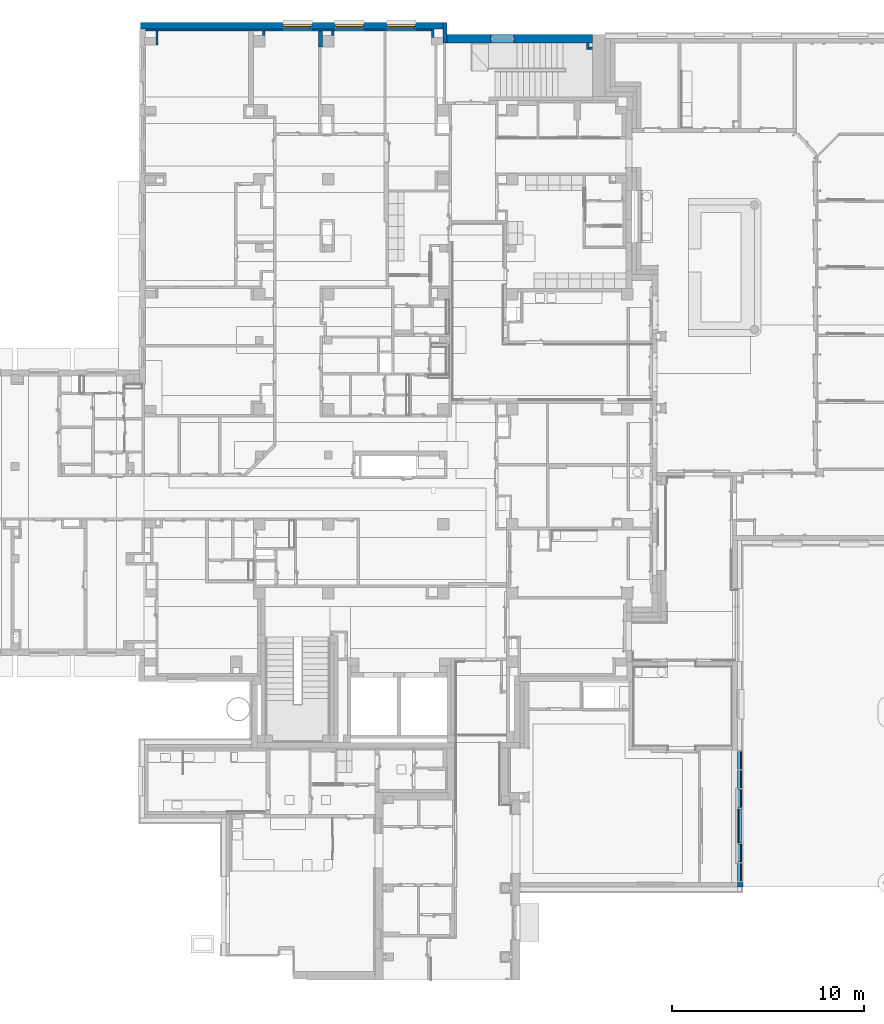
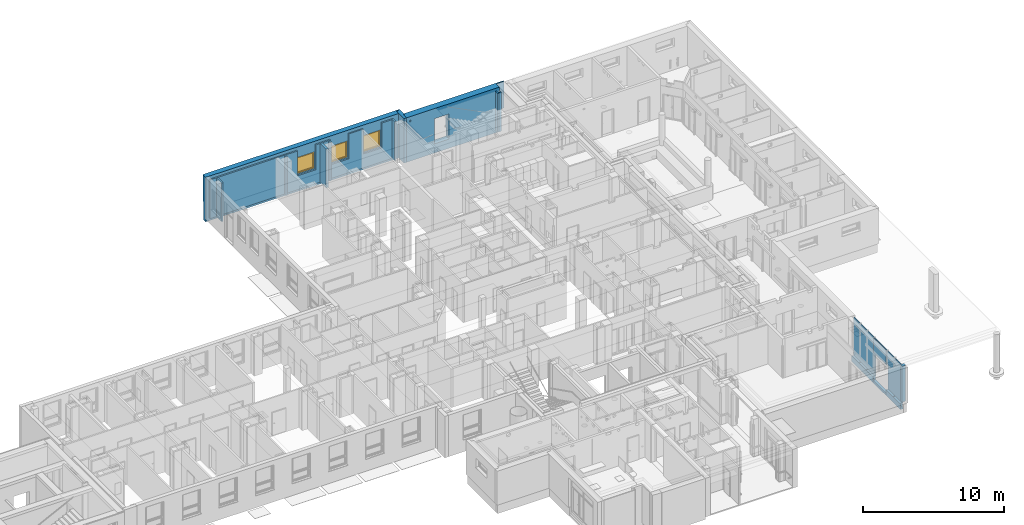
# One storey, part 55 of 140: 17 walls, 3 windows, 10 openings.
"""IFC4 building model written with IfcOpenShell, lengths in metres."""

from ifc_helpers import new_model, entity, si_unit, converted_unit, derived_unit, frame, frame_2d, origin, origin_with_axes, place, context, subcontext, project, spatial, polyline, rectangle, outline, extrude, clip, bounded_halfspace, closed_shell, open_shell, surface_model, source, transform, mapped, material, layer, layer_set, layer_usage, element, fill, save


model = new_model("IFC4")

# Units and contexts
model_context = context("Model", 3, precision=1e-05, world=origin())
body_context = subcontext(model_context, "Body", "Model", "MODEL_VIEW")
ifc_project = project(units=[si_unit("LENGTHUNIT", "METRE"), si_unit("AREAUNIT", "SQUARE_METRE"), si_unit("VOLUMEUNIT", "CUBIC_METRE"), si_unit("MASSUNIT", "GRAM", prefix="KILO"), converted_unit("PLANEANGLEUNIT", "DEGREE", entity("IfcPlaneAngleMeasure", 0.0174532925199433), si_unit("PLANEANGLEUNIT", "RADIAN"), dimensions=[0, 0, 0, 0, 0, 0, 0]), derived_unit("THERMALTRANSMITTANCEUNIT", [(si_unit("POWERUNIT", "WATT"), 1), (si_unit("THERMODYNAMICTEMPERATUREUNIT", "KELVIN"), -1), (si_unit("LENGTHUNIT", "METRE"), -2)]), derived_unit("VOLUMETRICFLOWRATEUNIT", [(si_unit("LENGTHUNIT", "METRE"), 3), (converted_unit("TIMEUNIT", "hour", entity("IfcTimeMeasure", 3600.0), si_unit("TIMEUNIT", "SECOND"), dimensions=[0, 0, 1, 0, 0, 0, 0]), -1), (si_unit("LENGTHUNIT", "METRE"), -1)])], contexts=[model_context])

# Site, building, storey
site_placement = place(None, origin())
site = spatial("IfcSite", under=ifc_project, at=site_placement, Name="3. ASŘ", CompositionType="ELEMENT")
building_placement = place(site_placement, origin())
building = spatial("IfcBuilding", under=site, at=building_placement, Name="Pavilon C", CompositionType="ELEMENT")
storey_placement = place(building_placement, origin())
storey = spatial("IfcBuildingStorey", under=building, at=storey_placement, Name="Půdorys 1.NP", CompositionType="ELEMENT", Elevation=0.0)

# Walls
ifc_material_1 = material(Name="ZDIVO Z CDm")
ifc_layer_1 = layer(ifc_material_1, 0.125)
ifc_layer_set_1 = layer_set([ifc_layer_1])
ifc_layer_usage_1 = layer_usage(ifc_layer_set_1, "AXIS2", "POSITIVE", 0.0)
wall_1_placement = place(storey_placement, frame((39.75, 33.05, -0.1), z_axis=(0.0, 0.0, 1.0), x_axis=(0.0, -1.0, 0.0)))
element("IfcWall", 1, at=wall_1_placement, inside=storey, material=ifc_layer_usage_1, Name="ZDIVO Z CDm", context=body_context, shape_type="SweptSolid", body=[
    extrude(rectangle(XDim=0.449999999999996, YDim=0.125, at=frame_2d((0.224999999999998, 0.0625), x_axis=(1.0, 0.0))), origin_with_axes(), (0.0, 0.0, 1.0), 3.35),
])
ifc_material_2 = material(Name="ZDIVO Z CDm")
ifc_layer_2 = layer(ifc_material_2, 0.125)
ifc_layer_set_2 = layer_set([ifc_layer_2])
ifc_layer_usage_2 = layer_usage(ifc_layer_set_2, "AXIS2", "POSITIVE", 0.0)
wall_2_placement = place(storey_placement, frame((47.95, 31.975, -0.1), z_axis=(0.0, 0.0, 1.0), x_axis=(0.0, 1.0, 0.0)))
element("IfcWall", 2, at=wall_2_placement, inside=storey, material=ifc_layer_usage_2, Name="ZDIVO Z CDm", context=body_context, shape_type="SweptSolid", body=[
    extrude(rectangle(XDim=0.325, YDim=0.125, at=frame_2d((0.1625, 0.0625), x_axis=(1.0, 0.0))), origin_with_axes(), (0.0, 0.0, 1.0), 3.35),
])
ifc_material_3 = material(Name="ZDIVO Z CDm")
ifc_layer_3 = layer(ifc_material_3, 0.125)
ifc_layer_set_3 = layer_set([ifc_layer_3])
ifc_layer_usage_3 = layer_usage(ifc_layer_set_3, "AXIS2", "POSITIVE", 0.0)
wall_3_placement = place(storey_placement, frame((48.15, 32.1, -0.1), z_axis=(0.0, 0.0, 1.0), x_axis=(-1.0, 0.0, 0.0)))
element("IfcWall", 3, at=wall_3_placement, inside=storey, material=ifc_layer_usage_3, Name="ZDIVO Z CDm", context=body_context, shape_type="SweptSolid", body=[
    extrude(rectangle(XDim=0.200000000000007, YDim=0.125, at=frame_2d((0.100000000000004, 0.0625), x_axis=(1.0, 0.0))), origin_with_axes(), (0.0, 0.0, 1.0), 3.35),
])

# Wall, openings
ifc_material_4 = material(Name="PÓROBETONOVÉ ZDIVO")
ifc_layer_4 = layer(ifc_material_4, 0.12)
ifc_layer_set_4 = layer_set([ifc_layer_4])
ifc_layer_usage_4 = layer_usage(ifc_layer_set_4, "AXIS2", "POSITIVE", 0.0)
wall_4_placement = place(storey_placement, frame((39.75, 33.05, -0.1), z_axis=(0.0, 0.0, 1.0), x_axis=(-1.0, 0.0, 0.0)))
wall_4 = element("IfcWall", 4, at=wall_4_placement, inside=storey, material=ifc_layer_usage_4, Name="PÓROBETONOVÉ ZDIVO", context=body_context, shape_type="SweptSolid", body=[
    extrude(rectangle(XDim=14.93, YDim=0.12, at=frame_2d((7.46500000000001, 0.06), x_axis=(1.0, 0.0))), origin_with_axes(), (0.0, 0.0, 1.0), 3.35),
])
opening_1_placement = place(wall_4_placement, frame((7.75000000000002, 0.12, 1.2), z_axis=(0.0, -1.0, 0.0), x_axis=(0.0, 0.0, 1.0)))
element("IfcOpeningElement", 5, at=opening_1_placement, cuts=wall_4, Name="Okenní otvor", ObjectType="Opening", context=body_context, shape_type="SweptSolid", body=[
    extrude(outline(polyline([(0.0, 1.5), (2.15, 1.5), (2.15, 0.0), (0.0, 0.0), (0.0, 1.5)])), origin_with_axes(), (0.0, 0.0, 1.0), 0.12),
])
opening_2_placement = place(wall_4_placement, frame((5.05000000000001, 0.12, 1.2), z_axis=(0.0, -1.0, 0.0), x_axis=(0.0, 0.0, 1.0)))
element("IfcOpeningElement", 6, at=opening_2_placement, cuts=wall_4, Name="Okenní otvor", ObjectType="Opening", context=body_context, shape_type="SweptSolid", body=[
    extrude(outline(polyline([(0.0, 1.5), (2.15, 1.5), (2.15, 0.0), (0.0, 0.0), (0.0, 1.5)])), origin_with_axes(), (0.0, 0.0, 1.0), 0.12),
])
opening_3_placement = place(wall_4_placement, frame((2.35000000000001, 0.12, 1.2), z_axis=(0.0, -1.0, 0.0), x_axis=(0.0, 0.0, 1.0)))
element("IfcOpeningElement", 7, at=opening_3_placement, cuts=wall_4, Name="Okenní otvor", ObjectType="Opening", context=body_context, shape_type="SweptSolid", body=[
    extrude(outline(polyline([(0.0, 1.5), (2.15, 1.5), (2.15, 0.0), (0.0, 0.0), (0.0, 1.5)])), origin_with_axes(), (0.0, 0.0, 1.0), 0.12),
])

# Walls
ifc_material_5 = material(Name="ZDIVO Z CDm")
ifc_layer_5 = layer(ifc_material_5, 0.125)
ifc_layer_set_5 = layer_set([ifc_layer_5])
ifc_layer_usage_5 = layer_usage(ifc_layer_set_5, "AXIS2", "POSITIVE", 0.0)
wall_5_placement = place(storey_placement, frame((31.05, 32.7, -0.1), z_axis=(0.0, 0.0, 1.0), x_axis=(0.0, 1.0, 0.0)))
element("IfcWall", 8, at=wall_5_placement, inside=storey, material=ifc_layer_usage_5, Name="ZDIVO Z CDm", context=body_context, shape_type="SweptSolid", body=[
    extrude(rectangle(XDim=0.23, YDim=0.125, at=frame_2d((0.115, 0.0625), x_axis=(1.0, 0.0))), origin_with_axes(), (0.0, 0.0, 1.0), 3.35),
])
ifc_material_6 = material(Name="ZDIVO Z CDm")
ifc_layer_6 = layer(ifc_material_6, 0.125)
ifc_layer_set_6 = layer_set([ifc_layer_6])
ifc_layer_usage_6 = layer_usage(ifc_layer_set_6, "AXIS2", "POSITIVE", 0.0)
wall_6_placement = place(storey_placement, frame((34.65, 32.7, -0.1), z_axis=(0.0, 0.0, 1.0), x_axis=(0.0, 1.0, 0.0)))
element("IfcWall", 9, at=wall_6_placement, inside=storey, material=ifc_layer_usage_6, Name="ZDIVO Z CDm", context=body_context, shape_type="SweptSolid", body=[
    extrude(rectangle(XDim=0.23, YDim=0.125, at=frame_2d((0.115, 0.0625), x_axis=(1.0, 0.0))), origin_with_axes(), (0.0, 0.0, 1.0), 3.35),
])
ifc_material_7 = material(Name="ZDIVO Z CDm")
ifc_layer_7 = layer(ifc_material_7, 0.2)
ifc_layer_set_7 = layer_set([ifc_layer_7])
ifc_layer_usage_7 = layer_usage(ifc_layer_set_7, "AXIS2", "POSITIVE", 0.0)
wall_7_placement = place(storey_placement, frame((33.85, 32.93, -0.1), z_axis=(0.0, 0.0, 1.0), x_axis=(0.0, -1.0, 0.0)))
element("IfcWall", 10, at=wall_7_placement, inside=storey, material=ifc_layer_usage_7, Name="ZDIVO Z CDm", context=body_context, shape_type="SweptSolid", body=[
    extrude(rectangle(XDim=0.83, YDim=0.2, at=frame_2d((0.415, 0.1), x_axis=(1.0, 0.0))), origin_with_axes(), (0.0, 0.0, 1.0), 3.35),
])
ifc_material_8 = material(Name="ZDIVO Z CDm")
ifc_layer_8 = layer(ifc_material_8, 0.125)
ifc_layer_set_8 = layer_set([ifc_layer_8])
ifc_layer_usage_8 = layer_usage(ifc_layer_set_8, "AXIS2", "POSITIVE", 0.0)
wall_8_placement = place(storey_placement, frame((25.35, 32.93, -0.1), z_axis=(0.0, 0.0, 1.0), x_axis=(0.0, -1.0, 0.0)))
element("IfcWall", 11, at=wall_8_placement, inside=storey, material=ifc_layer_usage_8, Name="ZDIVO Z CDm", context=body_context, shape_type="SweptSolid", body=[
    extrude(rectangle(XDim=0.73, YDim=0.125, at=frame_2d((0.365, 0.0625), x_axis=(1.0, 0.0))), origin_with_axes(), (0.0, 0.0, 1.0), 3.35),
])

# Wall, openings, windows
ifc_material_9 = material(Name="ZELEZOBETONOVÁ KCE")
ifc_layer_9 = layer(ifc_material_9, 0.320000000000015)
ifc_material_10 = material(Name="EPS")
ifc_layer_10 = layer(ifc_material_10, 0.1)
ifc_layer_set_9 = layer_set([ifc_layer_9, ifc_layer_10])
ifc_layer_usage_9 = layer_usage(ifc_layer_set_9, "AXIS2", "POSITIVE", 0.0)
wall_9_placement = place(storey_placement, frame((24.55, 33.05, -0.35), z_axis=(0.0, 0.0, 1.0), x_axis=(1.0, -4.60503646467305e-16, 0.0)))
wall_9 = element("IfcWall", 12, at=wall_9_placement, inside=storey, material=ifc_layer_usage_9, Name="ZELEZOBETONOVÁ KCE", context=body_context, shape_type="Clipping", body=[
    clip(extrude(outline(polyline([(-3.35060501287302e-30, 7.27595761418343e-15), (15.8, 7.27595761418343e-15), (15.8, 0.320000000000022), (16.0, 0.320000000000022), (16.0, 0.420000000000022), (-1.93411531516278e-16, 0.420000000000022), (-3.35060501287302e-30, 7.27595761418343e-15)])), frame((3.35060501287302e-30, -7.27595761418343e-15, 0.0), z_axis=(0.0, 0.0, 1.0), x_axis=(1.0, 0.0, 0.0)), (0.0, 0.0, 1.0), 3.85), bounded_halfspace(frame((9.56, 0.360000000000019, 1.55), z_axis=(-5.23532033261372e-31, 1.13686837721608e-15, 1.0), x_axis=(4.60503646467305e-16, -1.0, 0.0)), True, origin_with_axes(), polyline([(-1.93411531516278e-16, 0.420000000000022), (-1.47361166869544e-16, 0.320000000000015), (15.8, 0.320000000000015), (16.0, 0.320000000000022), (16.0, 0.420000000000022), (-1.93411531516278e-16, 0.420000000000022)]))),
])
opening_4_placement = place(wall_9_placement, frame((8.95, 0.320000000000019, 1.45), z_axis=(0.0, -1.0, 0.0), x_axis=(0.0, 0.0, 1.0)))
opening_4 = element("IfcOpeningElement", 13, at=opening_4_placement, cuts=wall_9, Name="Okenní otvor", ObjectType="Opening", context=body_context, shape_type="SweptSolid", body=[
    extrude(outline(polyline([(0.0, 1.5), (1.5, 1.5), (1.5, 0.0), (0.0, 0.0), (0.0, 1.5)])), origin_with_axes(), (0.0, 0.0, 1.0), 0.320000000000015),
    extrude(outline(polyline([(0.0, 1.5), (1.5, 1.5), (1.5, 0.0), (0.0, 0.0), (0.0, 1.5)])), frame((0.0, 0.0, -0.1), z_axis=(0.0, 0.0, 1.0), x_axis=(1.0, 0.0, 0.0)), (0.0, 0.0, 1.0), 0.1),
])
opening_5_placement = place(wall_9_placement, frame((11.65, 0.320000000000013, 1.45), z_axis=(0.0, -1.0, 0.0), x_axis=(0.0, 0.0, 1.0)))
opening_5 = element("IfcOpeningElement", 14, at=opening_5_placement, cuts=wall_9, Name="Okenní otvor", ObjectType="Opening", context=body_context, shape_type="SweptSolid", body=[
    extrude(outline(polyline([(0.0, 1.5), (1.5, 1.5), (1.5, 0.0), (0.0, 0.0), (0.0, 1.5)])), origin_with_axes(), (0.0, 0.0, 1.0), 0.320000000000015),
    extrude(outline(polyline([(0.0, 1.5), (1.5, 1.5), (1.5, 0.0), (0.0, 0.0), (0.0, 1.5)])), frame((0.0, 0.0, -0.1), z_axis=(0.0, 0.0, 1.0), x_axis=(1.0, 0.0, 0.0)), (0.0, 0.0, 1.0), 0.1),
])
opening_6_placement = place(wall_9_placement, frame((14.35, 0.320000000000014, 1.45), z_axis=(0.0, -1.0, 0.0), x_axis=(0.0, 0.0, 1.0)))
opening_6 = element("IfcOpeningElement", 15, at=opening_6_placement, cuts=wall_9, Name="Okenní otvor", ObjectType="Opening", context=body_context, shape_type="SweptSolid", body=[
    extrude(outline(polyline([(0.0, 1.5), (1.5, 1.5), (1.5, 0.0), (0.0, 0.0), (0.0, 1.5)])), origin_with_axes(), (0.0, 0.0, 1.0), 0.320000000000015),
    extrude(outline(polyline([(0.0, 1.5), (1.5, 1.5), (1.5, 0.0), (0.0, 0.0), (0.0, 1.5)])), frame((0.0, 0.0, -0.1), z_axis=(0.0, 0.0, 1.0), x_axis=(1.0, 0.0, 0.0)), (0.0, 0.0, 1.0), 0.1),
])
shared_shape = source(origin_with_axes(), body_context, "Body", "SurfaceModel", [
    surface_model("IfcShellBasedSurfaceModel", [(0.0, 0.182, 1.5), (0.0, 0.182, -5.63337527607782e-18), (0.08, 0.182, -5.63337527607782e-18), (0.08, 0.182, 1.5), (0.0, 0.0899999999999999, 5.63337527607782e-18), (0.0, 0.0900000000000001, 1.5), (0.08, 0.0900000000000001, 1.5), (0.08, 0.0899999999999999, 5.63337527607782e-18)], [closed_shell([[[0, 1, 2, 3]], [[4, 5, 6, 7]], [[1, 0, 5, 4]], [[2, 1, 4, 7]], [[3, 2, 7, 6]], [[0, 3, 6, 5]]], orient=[[False], [False], [False], [False], [False], [False]])]),
    surface_model("IfcShellBasedSurfaceModel", [(1.42, 0.182, 1.5), (1.42, 0.182, -5.63337527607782e-18), (1.5, 0.182, -5.63337527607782e-18), (1.5, 0.182, 1.5), (1.42, 0.0899999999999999, 5.63337527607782e-18), (1.42, 0.0900000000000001, 1.5), (1.5, 0.0900000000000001, 1.5), (1.5, 0.0899999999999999, 5.63337527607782e-18)], [closed_shell([[[0, 1, 2, 3]], [[4, 5, 6, 7]], [[1, 0, 5, 4]], [[2, 1, 4, 7]], [[3, 2, 7, 6]], [[0, 3, 6, 5]]], orient=[[False], [False], [False], [False], [False], [False]])]),
    surface_model("IfcShellBasedSurfaceModel", [(0.08, 0.182, 0.08), (0.08, 0.182, -5.63337527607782e-18), (1.42, 0.182, -5.63337527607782e-18), (1.42, 0.182, 0.08), (0.08, 0.0899999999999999, 5.63337527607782e-18), (0.08, 0.0899999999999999, 0.08), (1.42, 0.0899999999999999, 0.08), (1.42, 0.0899999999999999, 5.63337527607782e-18)], [closed_shell([[[0, 1, 2, 3]], [[4, 5, 6, 7]], [[1, 0, 5, 4]], [[2, 1, 4, 7]], [[3, 2, 7, 6]], [[0, 3, 6, 5]]], orient=[[False], [False], [False], [False], [False], [False]])]),
    surface_model("IfcShellBasedSurfaceModel", [(0.08, 0.182, 1.5), (0.08, 0.182, 1.42), (1.42, 0.182, 1.42), (1.42, 0.182, 1.5), (0.08, 0.0900000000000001, 1.42), (0.08, 0.0900000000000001, 1.5), (1.42, 0.0900000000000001, 1.5), (1.42, 0.0900000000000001, 1.42)], [closed_shell([[[0, 1, 2, 3]], [[4, 5, 6, 7]], [[1, 0, 5, 4]], [[2, 1, 4, 7]], [[3, 2, 7, 6]], [[0, 3, 6, 5]]], orient=[[False], [False], [False], [False], [False], [False]])]),
    surface_model("IfcShellBasedSurfaceModel", [(0.05, 0.145, 1.45), (0.05, 0.145, 0.05), (0.13, 0.145, 0.05), (0.13, 0.145, 1.45), (0.05, 0.0599999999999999, 0.05), (0.05, 0.0600000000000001, 1.45), (0.13, 0.0600000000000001, 1.45), (0.13, 0.0599999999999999, 0.05)], [closed_shell([[[0, 1, 2, 3]], [[4, 5, 6, 7]], [[1, 0, 5, 4]], [[2, 1, 4, 7]], [[3, 2, 7, 6]], [[0, 3, 6, 5]]], orient=[[False], [False], [False], [False], [False], [False]])]),
    surface_model("IfcShellBasedSurfaceModel", [(1.37, 0.145, 1.45), (1.37, 0.145, 0.05), (1.45, 0.145, 0.05), (1.45, 0.145, 1.45), (1.37, 0.0599999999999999, 0.05), (1.37, 0.0600000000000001, 1.45), (1.45, 0.0600000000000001, 1.45), (1.45, 0.0599999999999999, 0.05)], [closed_shell([[[0, 1, 2, 3]], [[4, 5, 6, 7]], [[1, 0, 5, 4]], [[2, 1, 4, 7]], [[3, 2, 7, 6]], [[0, 3, 6, 5]]], orient=[[False], [False], [False], [False], [False], [False]])]),
    surface_model("IfcShellBasedSurfaceModel", [(0.13, 0.145, 0.13), (0.13, 0.145, 0.05), (1.37, 0.145, 0.05), (1.37, 0.145, 0.13), (0.13, 0.0599999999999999, 0.05), (0.13, 0.0599999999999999, 0.13), (1.37, 0.0599999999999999, 0.13), (1.37, 0.0599999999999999, 0.05)], [closed_shell([[[0, 1, 2, 3]], [[4, 5, 6, 7]], [[1, 0, 5, 4]], [[2, 1, 4, 7]], [[3, 2, 7, 6]], [[0, 3, 6, 5]]], orient=[[False], [False], [False], [False], [False], [False]])]),
    surface_model("IfcShellBasedSurfaceModel", [(0.13, 0.145, 1.45), (0.13, 0.145, 1.37), (1.37, 0.145, 1.37), (1.37, 0.145, 1.45), (0.13, 0.0600000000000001, 1.37), (0.13, 0.0600000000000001, 1.45), (1.37, 0.0600000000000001, 1.45), (1.37, 0.0600000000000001, 1.37)], [closed_shell([[[0, 1, 2, 3]], [[4, 5, 6, 7]], [[1, 0, 5, 4]], [[2, 1, 4, 7]], [[3, 2, 7, 6]], [[0, 3, 6, 5]]], orient=[[False], [False], [False], [False], [False], [False]])]),
    surface_model("IfcShellBasedSurfaceModel", [(1.3975, 0.06, 0.77), (1.3975, 0.06, 0.73), (1.4225, 0.06, 0.73), (1.4225, 0.06, 0.77), (1.3975, 0.05, 0.73), (1.3975, 0.05, 0.77), (1.4225, 0.05, 0.77), (1.4225, 0.05, 0.73)], [closed_shell([[[0, 1, 2, 3]], [[4, 5, 6, 7]], [[1, 0, 5, 4]], [[2, 1, 4, 7]], [[3, 2, 7, 6]], [[0, 3, 6, 5]]], orient=[[False], [False], [False], [False], [False], [False]])]),
    surface_model("IfcShellBasedSurfaceModel", [(1.42, 0.05, 0.75), (1.41866025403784, 0.05, 0.755), (1.415, 0.05, 0.758660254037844), (1.41, 0.05, 0.76), (1.405, 0.05, 0.758660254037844), (1.40133974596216, 0.05, 0.755), (1.4, 0.05, 0.75), (1.40133974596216, 0.05, 0.745), (1.405, 0.05, 0.741339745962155), (1.41, 0.05, 0.74), (1.415, 0.05, 0.741339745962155), (1.41866025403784, 0.05, 0.745), (1.42, 0.01, 0.75), (1.41866025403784, 0.00500000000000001, 0.755), (1.415, 0.00133974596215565, 0.758660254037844), (1.41, 2.8421709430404e-17, 0.76), (1.405, 0.00133974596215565, 0.758660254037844), (1.40133974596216, 0.00500000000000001, 0.755), (1.4, 0.01, 0.75), (1.40133974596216, 0.015, 0.745), (1.405, 0.0186602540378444, 0.741339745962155), (1.41, 0.02, 0.74), (1.415, 0.0186602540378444, 0.741339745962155), (1.41866025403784, 0.015, 0.745), (1.42, 0.01, 0.635), (1.41866025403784, 0.005, 0.635), (1.415, 0.00133974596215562, 0.635), (1.41, 0.0, 0.635), (1.405, 0.00133974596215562, 0.635), (1.40133974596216, 0.005, 0.635), (1.4, 0.01, 0.635), (1.40133974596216, 0.015, 0.635), (1.405, 0.0186602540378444, 0.635), (1.41, 0.02, 0.635), (1.415, 0.0186602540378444, 0.635), (1.41866025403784, 0.015, 0.635)], [open_shell([[[0, 1, 2, 3, 4, 5, 6, 7, 8, 9, 10, 11]], [[0, 12, 13, 1]], [[1, 13, 14, 2]], [[2, 14, 15, 3]], [[3, 15, 16, 4]], [[4, 16, 17, 5]], [[5, 17, 18, 6]], [[6, 18, 19, 7]], [[7, 19, 20, 8]], [[8, 20, 21, 9]], [[9, 21, 22, 10]], [[10, 22, 23, 11]], [[11, 23, 12, 0]], [[12, 24, 25, 13]], [[13, 25, 26, 14]], [[14, 26, 27, 15]], [[15, 27, 28, 16]], [[16, 28, 29, 17]], [[17, 29, 30, 18]], [[18, 30, 31, 19]], [[19, 31, 32, 20]], [[20, 32, 33, 21]], [[21, 33, 34, 22]], [[22, 34, 35, 23]], [[23, 35, 24, 12]]], orient=[[False], [False], [False], [False], [False], [False], [False], [False], [False], [False], [False], [False], [False], [False], [False], [False], [False], [False], [False], [False], [False], [False], [False], [False], [False]])]),
    surface_model("IfcShellBasedSurfaceModel", [(0.13, 0.1025, 0.13), (1.37, 0.1025, 0.13), (1.37, 0.1025, 1.37), (0.13, 0.1025, 1.37)], [open_shell([[[0, 1, 2, 3]]], orient=[[False]])]),
])
window_1_placement = place(opening_4_placement, frame((0.0, 1.5, 0.282), z_axis=(1.0, 0.0, 0.0), x_axis=(0.0, -0.999999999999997, -2.15574286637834e-16)))
window_1 = element("IfcWindow", 16, at=window_1_placement, inside=storey, Name="O06", OverallHeight=1.5, OverallWidth=1.5, PartitioningType="USERDEFINED", PredefinedType="WINDOW", context=body_context, shape_type="MappedRepresentation", body=[
    mapped(shared_shape, transform((0.0, 0.0, 0.0), x_axis=(1.0, 0.0, 0.0), y_axis=(0.0, 1.0, 0.0), z_axis=(0.0, 0.0, 1.0), scale=0.999999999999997)),
])
fill(opening_4, window_1)
window_2_placement = place(opening_5_placement, frame((0.0, 1.5, 0.282), z_axis=(1.0, 0.0, 0.0), x_axis=(0.0, -1.0, -2.15574286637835e-16)))
window_2 = element("IfcWindow", 17, at=window_2_placement, inside=storey, Name="O06", OverallHeight=1.5, OverallWidth=1.5, PartitioningType="USERDEFINED", PredefinedType="WINDOW", context=body_context, shape_type="MappedRepresentation", body=[
    mapped(shared_shape, transform((0.0, 0.0, 0.0), x_axis=(1.0, 0.0, 0.0), y_axis=(0.0, 1.0, 0.0), z_axis=(0.0, 0.0, 1.0), scale=1.0)),
])
fill(opening_5, window_2)
window_3_placement = place(opening_6_placement, frame((0.0, 1.5, 0.282), z_axis=(1.0, 0.0, 0.0), x_axis=(0.0, -1.0, -2.15574286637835e-16)))
window_3 = element("IfcWindow", 18, at=window_3_placement, inside=storey, Name="O06", OverallHeight=1.5, OverallWidth=1.5, PartitioningType="USERDEFINED", PredefinedType="WINDOW", context=body_context, shape_type="MappedRepresentation", body=[
    mapped(shared_shape, transform((0.0, 0.0, 0.0), x_axis=(1.0, 0.0, 0.0), y_axis=(0.0, 1.0, 0.0), z_axis=(0.0, 0.0, 1.0), scale=1.0)),
])
fill(opening_6, window_3)

# Wall
ifc_material_11 = material(Name="ZELEZOBETONOVÁ KCE")
ifc_layer_11 = layer(ifc_material_11, 0.2)
ifc_material_12 = material(Name="EPS")
ifc_layer_12 = layer(ifc_material_12, 0.1)
ifc_layer_set_10 = layer_set([ifc_layer_11, ifc_layer_12])
ifc_layer_usage_10 = layer_usage(ifc_layer_set_10, "AXIS2", "POSITIVE", 0.0)
wall_10_placement = place(storey_placement, frame((40.35, 33.37, -0.35), z_axis=(0.0, 0.0, 1.0), x_axis=(0.0, -1.0, 0.0)))
element("IfcWall", 19, at=wall_10_placement, inside=storey, material=ifc_layer_usage_10, Name="ZELEZOBETONOVÁ KCE", context=body_context, shape_type="Clipping", body=[
    clip(extrude(outline(polyline([(-1.07000000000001, 0.0), (0.0, 0.0), (0.0, 0.2), (-0.45, 0.2), (-0.45, 0.3), (-1.17000000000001, 0.3), (-1.17000000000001, 0.2), (-1.07000000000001, 0.2), (-1.07000000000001, 0.0)])), frame((1.07000000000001, 0.0, 0.0), z_axis=(0.0, 0.0, 1.0), x_axis=(1.0, 0.0, 0.0)), (0.0, 0.0, 1.0), 3.85), bounded_halfspace(frame((0.208000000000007, 0.24, 1.55), z_axis=(0.0, 0.0, 1.0), x_axis=(0.0, -1.0, 0.0)), True, origin_with_axes(), polyline([(-0.1, 0.3), (-0.1, 0.2), (0.0, 0.2), (0.620000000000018, 0.2), (0.620000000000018, 0.3), (-0.1, 0.3)]))),
])

# Wall, openings
ifc_material_13 = material(Name="ZELEZOBETONOVÁ KCE")
ifc_layer_13 = layer(ifc_material_13, 0.45)
ifc_material_14 = material(Name="EPS")
ifc_layer_14 = layer(ifc_material_14, 0.1)
ifc_layer_set_11 = layer_set([ifc_layer_13, ifc_layer_14])
ifc_layer_usage_11 = layer_usage(ifc_layer_set_11, "AXIS2", "POSITIVE", 0.0)
wall_11_placement = place(storey_placement, frame((40.55, 32.3, -0.35)))
wall_11 = element("IfcWall", 20, at=wall_11_placement, inside=storey, material=ifc_layer_usage_11, Name="ZELEZOBETONOVÁ KCE", context=body_context, shape_type="Clipping", body=[
    clip(extrude(outline(polyline([(0.0, 0.0), (7.59999999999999, 0.0), (7.59999999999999, 0.45), (8.24999999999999, 0.45), (8.24999999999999, 0.55), (0.1, 0.55), (0.1, 0.45), (0.0, 0.45), (0.0, 0.0)])), origin_with_axes(), (0.0, 0.0, 1.0), 3.85), bounded_halfspace(frame((4.85999999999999, 0.490000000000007, 1.55), z_axis=(0.0, 1.13686837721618e-15, 1.0), x_axis=(0.0, -1.0, 0.0)), True, origin_with_axes(), polyline([(0.0999999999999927, 0.55), (0.0999999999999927, 0.450000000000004), (7.59999999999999, 0.45), (8.24999999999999, 0.450000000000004), (8.24999999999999, 0.55), (0.0999999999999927, 0.55)]))),
])
opening_7_placement = place(wall_11_placement, frame((3.49999999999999, 0.45, 0.8), z_axis=(0.0, -1.0, 0.0), x_axis=(0.0, 0.0, 1.0)))
element("IfcOpeningElement", 21, at=opening_7_placement, cuts=wall_11, Name="Dveřní otvor", ObjectType="Opening", context=body_context, shape_type="SweptSolid", body=[
    extrude(outline(polyline([(0.0, 1.2), (2.18, 1.2), (2.18, 0.0), (0.0, 0.0), (0.0, 1.2)])), origin_with_axes(), (0.0, 0.0, 1.0), 0.45),
    extrude(outline(polyline([(0.0, 1.2), (2.18, 1.2), (2.18, 0.0), (0.0, 0.0), (0.0, 1.2)])), frame((0.0, 0.0, -0.1), z_axis=(0.0, 0.0, 1.0), x_axis=(1.0, 0.0, 0.0)), (0.0, 0.0, 1.0), 0.1),
])
opening_8_placement = place(wall_11_placement, frame((0.268639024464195, 0.0, 3.4), z_axis=(0.0, 1.0, 0.0), x_axis=(0.0, 0.0, 1.0)))
element("IfcOpeningElement", 22, at=opening_8_placement, cuts=wall_11, Name="CHL", ObjectType="Opening", context=body_context, shape_type="SweptSolid", body=[
    extrude(outline(polyline([(0.0, 0.1), (0.15, 0.1), (0.15, 0.0), (0.0, 0.0), (0.0, 0.1)])), origin_with_axes(), (0.0, 0.0, 1.0), 0.55),
])

# Wall, opening
ifc_material_15 = material(Name="PROSKLENÁ FASÁDA")
ifc_layer_15 = layer(ifc_material_15, 0.055)
ifc_layer_set_12 = layer_set([ifc_layer_15])
ifc_layer_usage_12 = layer_usage(ifc_layer_set_12, "AXIS2", "POSITIVE", 0.0)
wall_12_placement = place(storey_placement, frame((55.73, -7.64999999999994, -0.3), z_axis=(0.0, 0.0, 1.0), x_axis=(8.08439734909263e-15, -1.0, 0.0)))
wall_12 = element("IfcWall", 23, at=wall_12_placement, inside=storey, material=ifc_layer_usage_12, Name="PROSKLENÁ PŘÍČKA JEDNODUCHÁ", context=body_context, shape_type="SweptSolid", body=[
    extrude(rectangle(XDim=1.80000000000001, YDim=0.055, at=frame_2d((0.900000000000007, 0.0275), x_axis=(1.0, 0.0))), origin_with_axes(), (0.0, 0.0, 1.0), 3.7),
])
opening_9_placement = place(wall_12_placement, frame((1.80000000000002, 0.055, 0.0), z_axis=(-8.26813365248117e-15, -1.0, 0.0), x_axis=(0.0, 0.0, 1.0)))
element("IfcOpeningElement", 24, at=opening_9_placement, cuts=wall_12, ObjectType="Opening", context=body_context, shape_type="SweptSolid", body=[
    extrude(outline(polyline([(0.0, 1.8), (2.4, 1.8), (2.4, 0.0), (0.0, 0.0), (0.0, 1.8)])), origin_with_axes(), (0.0, 0.0, 1.0), 0.055),
])

# Walls
ifc_material_16 = material(Name="PERIMETR")
ifc_layer_16 = layer(ifc_material_16, 0.22)
ifc_layer_set_13 = layer_set([ifc_layer_16])
ifc_layer_usage_13 = layer_usage(ifc_layer_set_13, "AXIS2", "POSITIVE", 0.0)
wall_13_placement = place(storey_placement, frame((55.7000000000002, -9.44999999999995, -0.5), z_axis=(0.0, 0.0, 1.0), x_axis=(0.0, -1.0, 0.0)))
element("IfcWall", 25, at=wall_13_placement, inside=storey, material=ifc_layer_usage_13, Name="PERIMETR", context=body_context, shape_type="Clipping", body=[
    clip(clip(clip(extrude(rectangle(XDim=2.05000000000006, YDim=0.22, at=frame_2d((1.02500000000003, 0.11), x_axis=(1.0, 0.0))), origin_with_axes(), (0.0, 0.0, 1.0), 0.5), bounded_halfspace(frame((0.0250000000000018, 0.124999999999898, 0.2), z_axis=(0.0, 0.0, -1.0), x_axis=(0.0, -1.0, 0.0)), True, origin_with_axes(), polyline([(0.0, 0.22), (0.0, 0.0299999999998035), (0.05, 0.0299999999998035), (0.0500000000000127, 0.219999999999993), (0.0, 0.22)]))), bounded_halfspace(frame((1.02500000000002, 0.124999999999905, 0.2), z_axis=(0.0, 0.0, -1.0), x_axis=(0.0, -1.0, 0.0)), True, origin_with_axes(), polyline([(1.00000000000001, 0.22), (1.00000000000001, 0.0299999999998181), (1.05000000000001, 0.0299999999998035), (1.05000000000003, 0.22), (1.00000000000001, 0.22)]))), bounded_halfspace(frame((2.02500000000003, 0.124999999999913, 0.2), z_axis=(0.0, 0.0, -1.0), x_axis=(0.0, -1.0, 0.0)), True, origin_with_axes(), polyline([(2.00000000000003, 0.22), (2.00000000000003, 0.0299999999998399), (2.05000000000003, 0.0299999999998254), (2.05000000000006, 0.22), (2.00000000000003, 0.22)]))),
])
ifc_material_17 = material(Name="PERIMETR")
ifc_layer_17 = layer(ifc_material_17, 0.22)
ifc_layer_set_14 = layer_set([ifc_layer_17])
ifc_layer_usage_14 = layer_usage(ifc_layer_set_14, "AXIS2", "POSITIVE", 0.0)
wall_14_placement = place(storey_placement, frame((55.7000000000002, -4.60000000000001, -0.5), z_axis=(0.0, 0.0, 1.0), x_axis=(0.0, -1.0, 0.0)))
element("IfcWall", 26, at=wall_14_placement, inside=storey, material=ifc_layer_usage_14, Name="PERIMETR", context=body_context, shape_type="Clipping", body=[
    clip(clip(clip(clip(extrude(rectangle(XDim=3.04999999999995, YDim=0.22, at=frame_2d((1.52499999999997, 0.11), x_axis=(1.0, 0.0))), origin_with_axes(), (0.0, 0.0, 1.0), 0.5), bounded_halfspace(frame((0.0249999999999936, 0.12499999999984, 0.2), z_axis=(0.0, 0.0, -1.0), x_axis=(-7.18022132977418e-14, -1.0, 0.0)), True, origin_with_axes(), polyline([(0.0, 0.22), (-1.36424205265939e-14, 0.0299999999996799), (0.0499999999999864, 0.0299999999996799), (0.0499999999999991, 0.22), (0.0, 0.22)]))), bounded_halfspace(frame((1.02499999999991, 0.124999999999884, 0.2), z_axis=(0.0, 0.0, -1.0), x_axis=(0.0, -1.0, 0.0)), True, origin_with_axes(), polyline([(0.999999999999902, 0.22), (0.999999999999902, 0.0299999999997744), (1.0499999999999, 0.0299999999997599), (1.04999999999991, 0.22), (0.999999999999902, 0.22)]))), bounded_halfspace(frame((2.02499999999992, 0.124999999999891, 0.2), z_axis=(0.0, 0.0, -1.0), x_axis=(0.0, -1.0, 0.0)), True, origin_with_axes(), polyline([(1.99999999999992, 0.22), (1.99999999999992, 0.0299999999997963), (2.04999999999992, 0.0299999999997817), (2.04999999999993, 0.22), (1.99999999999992, 0.22)]))), bounded_halfspace(frame((3.02499999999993, 0.124999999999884, 0.2), z_axis=(0.0, 0.0, -1.0), x_axis=(0.0, -1.0, 0.0)), True, origin_with_axes(), polyline([(2.99999999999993, 0.22), (2.99999999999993, 0.0299999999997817), (3.04999999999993, 0.0299999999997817), (3.04999999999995, 0.22), (2.99999999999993, 0.22)]))),
])
ifc_material_18 = material(Name="PERIMETR")
ifc_layer_18 = layer(ifc_material_18, 0.22)
ifc_layer_set_15 = layer_set([ifc_layer_18])
ifc_layer_usage_15 = layer_usage(ifc_layer_set_15, "AXIS2", "POSITIVE", 0.0)
wall_15_placement = place(storey_placement, frame((55.7000000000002, -7.64999999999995, -0.5), z_axis=(0.0, 0.0, 1.0), x_axis=(0.0, -1.0, 0.0)))
element("IfcWall", 27, at=wall_15_placement, inside=storey, material=ifc_layer_usage_15, Name="PERIMETR", context=body_context, shape_type="SweptSolid", body=[
    extrude(rectangle(XDim=1.8, YDim=0.22, at=frame_2d((0.9, 0.11), x_axis=(1.0, 0.0))), origin_with_axes(), (0.0, 0.0, 1.0), 0.2),
])
ifc_material_19 = material(Name="MINERÁLNÍ VATA")
ifc_layer_19 = layer(ifc_material_19, 0.3)
ifc_layer_set_16 = layer_set([ifc_layer_19])
ifc_layer_usage_16 = layer_usage(ifc_layer_set_16, "AXIS2", "POSITIVE", 0.0)
wall_16_placement = place(storey_placement, frame((56.0000000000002, -11.75, 0.3), z_axis=(0.0, 0.0, 1.0), x_axis=(0.0, 1.0, 0.0)))
element("IfcWall", 28, at=wall_16_placement, inside=storey, material=ifc_layer_usage_16, Name="MINERÁLNÍ VATA", context=body_context, shape_type="SweptSolid", body=[
    extrude(rectangle(XDim=0.25, YDim=0.3, at=frame_2d((0.125, 0.15), x_axis=(1.0, 0.0))), origin_with_axes(), (0.0, 0.0, 1.0), 3.1),
])

# Wall, opening
ifc_material_20 = material(Name="PROSKLENÁ FASÁDA")
ifc_layer_20 = layer(ifc_material_20, 0.055)
ifc_layer_set_17 = layer_set([ifc_layer_20])
ifc_layer_usage_17 = layer_usage(ifc_layer_set_17, "AXIS2", "POSITIVE", 0.0)
wall_17_placement = place(storey_placement, frame((55.925, -11.5, 0.0), z_axis=(0.0, 0.0, 1.0), x_axis=(0.0, 1.0, 0.0)))
wall_17 = element("IfcWall", 29, at=wall_17_placement, inside=storey, material=ifc_layer_usage_17, Name="PROSKLENÁ PŘÍČKA JEDNODUCHÁ", context=body_context, shape_type="SweptSolid", body=[
    extrude(rectangle(XDim=6.9, YDim=0.055, at=frame_2d((3.45, 0.0275), x_axis=(1.0, 0.0))), origin_with_axes(), (0.0, 0.0, 1.0), 3.28),
])
opening_10_placement = place(wall_17_placement, frame((3.85000000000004, 0.055, 0.0), z_axis=(0.0, -1.0, 0.0), x_axis=(0.0, 0.0, 1.0)))
element("IfcOpeningElement", 30, at=opening_10_placement, cuts=wall_17, Name="Dveřní otvor", ObjectType="Opening", context=body_context, shape_type="SweptSolid", body=[
    extrude(outline(polyline([(0.0, 1.8), (2.1, 1.8), (2.1, 0.0), (0.0, 0.0), (0.0, 1.8)])), origin_with_axes(), (0.0, 0.0, 1.0), 0.055),
])

save(model, "model.ifc")
